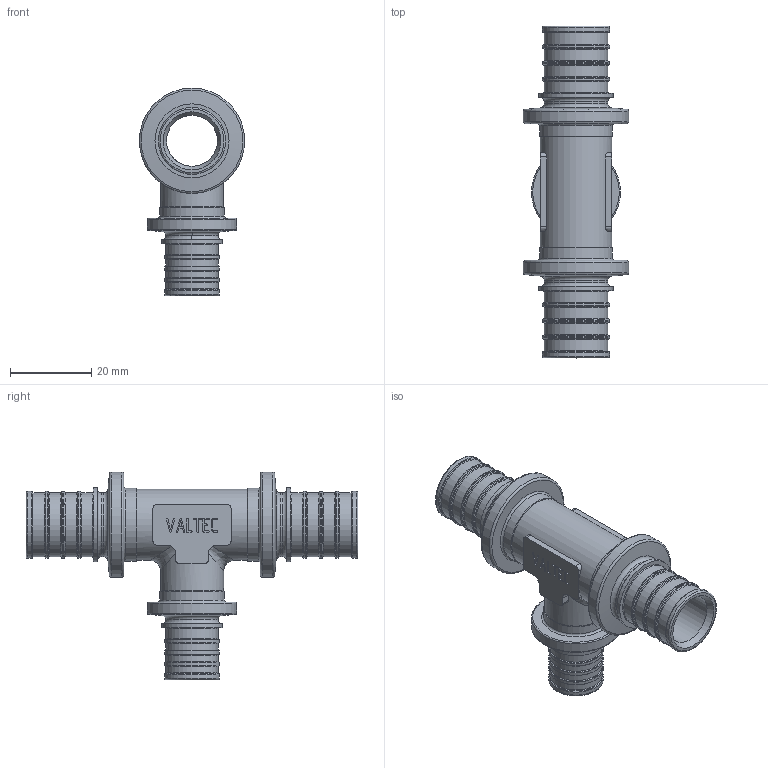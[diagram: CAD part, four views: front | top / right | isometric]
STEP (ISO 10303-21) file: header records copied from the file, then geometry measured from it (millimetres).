
FILE_DESCRIPTION(('STEP AP203'), '1');
FILE_NAME('覆.752241.004 - VTm.431.G.201620 秮鍣. 縺鳱', '', ('UNSPECIFIED'), ('UNSPECIFIED'), 'C3D Converter', 'C3D Toolkit', '');
FILE_SCHEMA(('CONFIG_CONTROL_DESIGN'));
Length unit declared in the file: millimetre
Products named in the file (1): ВР.752241.004
Bounding box: 25.9 x 81.6 x 51.05 mm (x, y, z)
Volume: 13412.3 mm3; surface area: 12212.2 mm2
Topology: 1 solids, 1 shells, 401 faces, 1017 edges, 647 vertices
Faces by surface type: extrusion 142, plane 134, torus 59, cylinder 55, cone 9, bspline 2
Full cylindrical faces by diameter (mm): 10 x1, 12.5 x1, 12.8 x4, 13.5 x4, 15 x1, 15.5 x1, 15.7 x10, 15.8 x1, 16.5 x8, 17.5 x1, 17.9 x2, 18.2 x2, 21.9 x1, 25.9 x2
Entity records: 15869 total; most frequent: CARTESIAN_POINT 3887, ORIENTED_EDGE 1826, DIRECTION 1412, EDGE_CURVE 913, VERTEX_POINT 647, VECTOR 586, EDGE_LOOP 538, B_SPLINE_CURVE_WITH_KNOTS 456
